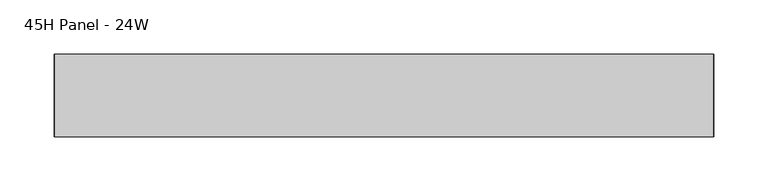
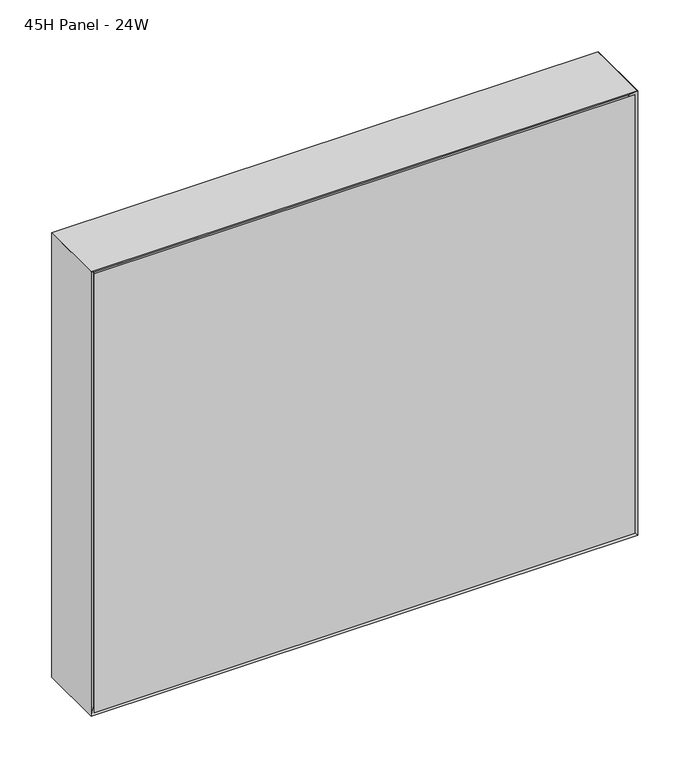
"""IFC4 building model written with IfcOpenShell, lengths in millimetres: furniture geometry, Steelcase - Montage - Frame - 20H - Enhanced Standard - Single Stack-On : 45H Panel - 24W."""

from ifc_helpers import new_model, si_unit, frame, origin, place, context, project, spatial, polyline, outline, extrude, faceted_brep, source, transform, mapped, element, save


def furniture_45h_panel_24w_b5cd555b(model_context):
    return source(origin(), model_context, "Body", "SolidModel", [
        faceted_brep([(600.0750027, 31.7500194, 1650.9999516), (9.5250028, 31.7500194, 1650.9999516), (9.5250028, 31.7500194, 1146.175), (600.0750027, 31.7500194, 1146.175), (606.425, 38.1000194, 1657.3499516), (606.425, 38.1000194, 1139.825), (3.175, 38.1000194, 1139.825), (3.175, 38.1000194, 1657.3499516)], [[[0, 1, 2, 3]], [[4, 5, 6, 7]], [[4, 0, 3, 5]], [[5, 3, 2, 6]], [[6, 2, 1, 7]], [[7, 1, 0, 4]]]),
        faceted_brep([(600.0750027, -31.7500194, 1650.9999516), (600.0750027, -31.7500194, 1146.175), (9.5250028, -31.7500194, 1146.175), (9.5250028, -31.7500194, 1650.9999516), (606.425, -38.1000194, 1657.3499516), (3.175, -38.1000194, 1657.3499516), (3.175, -38.1000194, 1139.825), (606.425, -38.1000194, 1139.825)], [[[0, 1, 2, 3]], [[4, 5, 6, 7]], [[4, 7, 1, 0]], [[7, 6, 2, 1]], [[6, 5, 3, 2]], [[5, 4, 0, 3]]]),
        faceted_brep([(609.6, -38.1000015, 1136.65), (609.6, 38.1000015, 1136.65), (609.6, 38.1000015, 1660.5249516), (609.6, -38.1000106, 1660.5249515), (0.0, 38.1000015, 1136.65), (0.0, -38.1000015, 1136.65), (0.0, -38.1000015, 1660.5249516), (0.0, 38.1000015, 1660.5249516), (6.3500484, 31.749953, 1143.0000484), (603.2499879, 31.749953, 1143.0000484), (6.35, -31.749953, 1143.0000484), (603.2499879, -31.749953, 1143.0000484), (6.3500165, 31.749985, 1654.174935), (6.3500006, -31.7500009, 1654.1749031), (603.2499879, -31.7499979, 1654.1749031), (603.2499879, 31.7499889, 1654.1749394)], [[[0, 1, 2, 3]], [[4, 5, 6, 7]], [[1, 0, 5, 4]], [[1, 4, 8, 9]], [[9, 8, 10, 11]], [[5, 0, 11, 10]], [[4, 7, 12, 8]], [[6, 5, 10, 13]], [[10, 8, 12, 13]], [[9, 11, 14, 15]], [[0, 3, 14, 11]], [[2, 1, 9, 15]], [[3, 2, 15, 14]], [[7, 6, 13, 12]]]),
        faceted_brep([(609.6, -38.1000015, 1660.5249516), (0.0, -38.1000015, 1660.5249516), (6.3500484, -31.749953, 1654.1749031), (603.2499516, -31.749953, 1654.1749031), (6.3500484, 31.749953, 1654.1749031), (603.2499516, 31.749953, 1654.1749031), (0.0, 38.1000015, 1660.5249516), (609.6, 38.1000015, 1660.5249516)], [[[0, 1, 2, 3]], [[3, 2, 4, 5]], [[6, 7, 5, 4]], [[1, 0, 7, 6]], [[2, 1, 6, 4]], [[0, 3, 5, 7]]]),
        extrude(outline(polyline([(603.2499879, 31.7500016), (603.2499879, -31.7499985), (6.35, -31.7499985), (6.35, 31.7500016), (603.2499879, 31.7500016)])), frame((0.0, 0.0, 1142.9952145), z_axis=(0.0, 0.0, 1.0), x_axis=(1.0, 0.0, 0.0)), (0.0, 0.0, 1.0), 511.1796886),
    ])


if __name__ == "__main__":
    model = new_model("IFC4")
    model_context = context("Model", 3, world=origin())
    ifc_project = project(units=[si_unit("LENGTHUNIT", "METRE", prefix="MILLI")], contexts=[model_context])
    site = spatial("IfcSite", under=ifc_project)
    building = spatial("IfcBuilding", under=site)
    placement = place(None, origin())
    furniture_45h_panel_24w_shape = furniture_45h_panel_24w_b5cd555b(model_context)
    element("IfcFurniture", 1, ObjectType="Steelcase - Montage - Frame - 20H - Enhanced Standard - Single Stack-On : 45H Panel - 24W", at=placement, inside=building, context=model_context, shape_type="MappedRepresentation", body=[
        mapped(furniture_45h_panel_24w_shape, transform((0.0, 0.0, 0.0), x_axis=(1.0, 0.0, 0.0), y_axis=(0.0, 1.0, 0.0), z_axis=(0.0, 0.0, 1.0))),
    ])
    save(model, "model.ifc")
